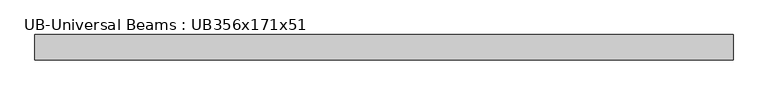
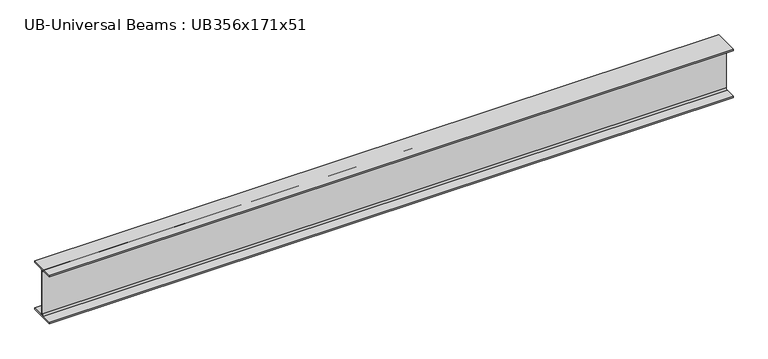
"""IFC4 building model written with IfcOpenShell, lengths in millimetres: beam geometry, UB-Universal Beams : UB356x171x51."""

from ifc_helpers import new_model, si_unit, point, frame, frame_2d, origin, place, context, project, spatial, polyline, circle_curve, trimmed, segment, composite_curve, outline, extrude, source, transform, mapped, element, save


def ub_universal_beams_ub356x171x51_ef72dcdd(model_context):
    return source(origin(), model_context, "Body", "SweptSolid", [
        extrude(outline(composite_curve([segment(polyline([(85.75, -166.0), (85.75, -177.5), (-85.75, -177.5), (-85.75, -166.0), (-13.9, -166.0)]), True, "CONTINUOUS"), segment(trimmed(circle_curve(frame_2d((-13.9, -155.8)), 10.2), [point((-13.9, -166.0))], [point((-3.7, -155.8))], True, "CARTESIAN"), True, "CONTINUOUS"), segment(polyline([(-3.7, -155.8), (-3.7, 155.8)]), True, "CONTINUOUS"), segment(trimmed(circle_curve(frame_2d((-13.9, 155.8)), 10.2), [point((-3.7, 155.8))], [point((-13.9, 166.0))], True, "CARTESIAN"), True, "CONTINUOUS"), segment(polyline([(-13.9, 166.0), (-85.75, 166.0), (-85.75, 177.5), (85.75, 177.5), (85.75, 166.0), (13.9, 166.0)]), True, "CONTINUOUS"), segment(trimmed(circle_curve(frame_2d((13.9, 155.8)), 10.2), [point((13.9, 166.0))], [point((3.7, 155.8))], True, "CARTESIAN"), True, "CONTINUOUS"), segment(polyline([(3.7, 155.8), (3.7, -155.8)]), True, "CONTINUOUS"), segment(trimmed(circle_curve(frame_2d((13.9, -155.8)), 10.2), [point((3.7, -155.8))], [point((13.9, -166.0))], True, "CARTESIAN"), True, "CONTINUOUS"), segment(polyline([(13.9, -166.0), (85.75, -166.0)]), True, "CONTINUOUS")], self_intersect=False)), frame((-2360.8, 0.0, 0.0), z_axis=(1.0, 0.0, 0.0), x_axis=(0.0, 1.0, 0.0)), (0.0, 0.0, 1.0), 4721.6),
    ])


if __name__ == "__main__":
    model = new_model("IFC4")
    model_context = context("Model", 3, world=origin())
    ifc_project = project(units=[si_unit("LENGTHUNIT", "METRE", prefix="MILLI")], contexts=[model_context])
    site = spatial("IfcSite", under=ifc_project)
    building = spatial("IfcBuilding", under=site)
    placement = place(None, origin())
    ub_universal_beams_ub356x171x51_shape = ub_universal_beams_ub356x171x51_ef72dcdd(model_context)
    element("IfcBeam", 1, ObjectType="UB-Universal Beams : UB356x171x51", at=placement, inside=building, context=model_context, shape_type="MappedRepresentation", body=[
        mapped(ub_universal_beams_ub356x171x51_shape, transform((0.0, 0.0, 0.0), x_axis=(1.0, 0.0, 0.0), y_axis=(0.0, 1.0, 0.0), z_axis=(0.0, 0.0, 1.0))),
    ])
    save(model, "model.ifc")
